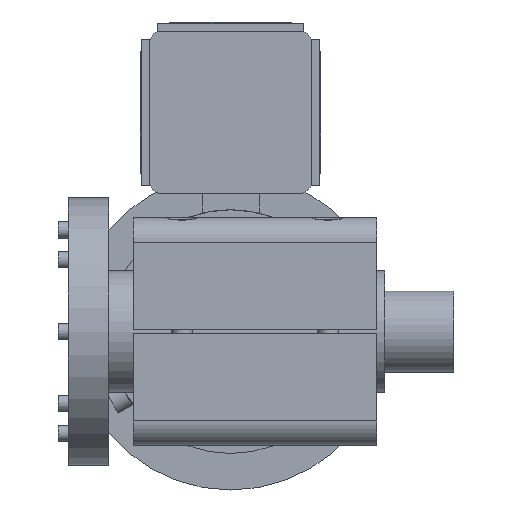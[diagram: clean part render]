
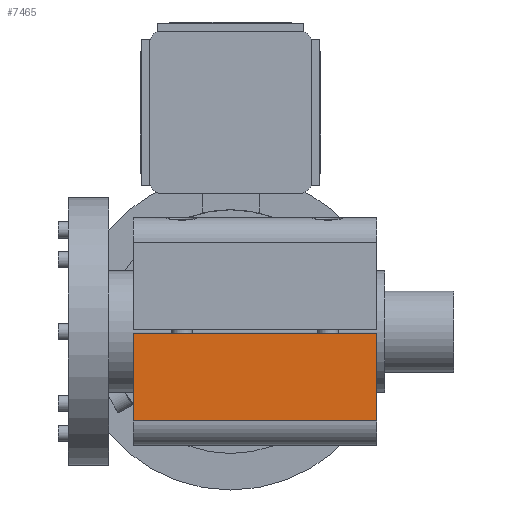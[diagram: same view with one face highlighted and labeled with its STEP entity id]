
A CAD part, left-side view. The second image highlights one B-rep face of the part: STEP entity #7465.
In plain terms, the highlighted planar face has unit normal (-1, 0, 0).
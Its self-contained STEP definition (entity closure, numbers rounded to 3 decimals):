
#7465 = ADVANCED_FACE('',(#7466),#7480,.F.);
#7466 = FACE_BOUND('',#7467,.F.);
#7467 = EDGE_LOOP('',(#7468,#7503,#7531,#7559));
#7468 = ORIENTED_EDGE('',*,*,#7469,.F.);
#7469 = EDGE_CURVE('',#7470,#7472,#7474,.T.);
#7470 = VERTEX_POINT('',#7471);
#7471 = CARTESIAN_POINT('',(368.,-36.,678.));
#7472 = VERTEX_POINT('',#7473);
#7473 = CARTESIAN_POINT('',(368.,-36.,699.5));
#7474 = SURFACE_CURVE('',#7475,(#7479,#7491),.PCURVE_S1.);
#7475 = LINE('',#7476,#7477);
#7476 = CARTESIAN_POINT('',(368.,-36.,672.));
#7477 = VECTOR('',#7478,1.);
#7478 = DIRECTION('',(0.,0.,1.));
#7479 = PCURVE('',#7480,#7485);
#7480 = PLANE('',#7481);
#7481 = AXIS2_PLACEMENT_3D('',#7482,#7483,#7484);
#7482 = CARTESIAN_POINT('',(368.,-36.,672.));
#7483 = DIRECTION('',(1.,0.,0.));
#7484 = DIRECTION('',(0.,0.,1.));
#7485 = DEFINITIONAL_REPRESENTATION('',(#7486),#7490);
#7486 = LINE('',#7487,#7488);
#7487 = CARTESIAN_POINT('',(0.,0.));
#7488 = VECTOR('',#7489,1.);
#7489 = DIRECTION('',(1.,0.));
#7490 = ( GEOMETRIC_REPRESENTATION_CONTEXT(2) 
PARAMETRIC_REPRESENTATION_CONTEXT() REPRESENTATION_CONTEXT('2D SPACE',''
  ) );
#7491 = PCURVE('',#7492,#7497);
#7492 = PLANE('',#7493);
#7493 = AXIS2_PLACEMENT_3D('',#7494,#7495,#7496);
#7494 = CARTESIAN_POINT('',(368.,-36.,672.));
#7495 = DIRECTION('',(0.,1.,0.));
#7496 = DIRECTION('',(0.,0.,1.));
#7497 = DEFINITIONAL_REPRESENTATION('',(#7498),#7502);
#7498 = LINE('',#7499,#7500);
#7499 = CARTESIAN_POINT('',(0.,0.));
#7500 = VECTOR('',#7501,1.);
#7501 = DIRECTION('',(1.,0.));
#7502 = ( GEOMETRIC_REPRESENTATION_CONTEXT(2) 
PARAMETRIC_REPRESENTATION_CONTEXT() REPRESENTATION_CONTEXT('2D SPACE',''
  ) );
#7503 = ORIENTED_EDGE('',*,*,#7504,.T.);
#7504 = EDGE_CURVE('',#7470,#7505,#7507,.T.);
#7505 = VERTEX_POINT('',#7506);
#7506 = CARTESIAN_POINT('',(368.,24.,678.));
#7507 = SURFACE_CURVE('',#7508,(#7512,#7519),.PCURVE_S1.);
#7508 = LINE('',#7509,#7510);
#7509 = CARTESIAN_POINT('',(368.,-36.,678.));
#7510 = VECTOR('',#7511,1.);
#7511 = DIRECTION('',(0.,1.,0.));
#7512 = PCURVE('',#7480,#7513);
#7513 = DEFINITIONAL_REPRESENTATION('',(#7514),#7518);
#7514 = LINE('',#7515,#7516);
#7515 = CARTESIAN_POINT('',(6.,0.));
#7516 = VECTOR('',#7517,1.);
#7517 = DIRECTION('',(0.,-1.));
#7518 = ( GEOMETRIC_REPRESENTATION_CONTEXT(2) 
PARAMETRIC_REPRESENTATION_CONTEXT() REPRESENTATION_CONTEXT('2D SPACE',''
  ) );
#7519 = PCURVE('',#7520,#7525);
#7520 = CYLINDRICAL_SURFACE('',#7521,6.);
#7521 = AXIS2_PLACEMENT_3D('',#7522,#7523,#7524);
#7522 = CARTESIAN_POINT('',(374.,-36.,678.));
#7523 = DIRECTION('',(0.,1.,0.));
#7524 = DIRECTION('',(-1.,0.,0.));
#7525 = DEFINITIONAL_REPRESENTATION('',(#7526),#7530);
#7526 = LINE('',#7527,#7528);
#7527 = CARTESIAN_POINT('',(-0.,0.));
#7528 = VECTOR('',#7529,1.);
#7529 = DIRECTION('',(-0.,1.));
#7530 = ( GEOMETRIC_REPRESENTATION_CONTEXT(2) 
PARAMETRIC_REPRESENTATION_CONTEXT() REPRESENTATION_CONTEXT('2D SPACE',''
  ) );
#7531 = ORIENTED_EDGE('',*,*,#7532,.T.);
#7532 = EDGE_CURVE('',#7505,#7533,#7535,.T.);
#7533 = VERTEX_POINT('',#7534);
#7534 = CARTESIAN_POINT('',(368.,24.,699.5));
#7535 = SURFACE_CURVE('',#7536,(#7540,#7547),.PCURVE_S1.);
#7536 = LINE('',#7537,#7538);
#7537 = CARTESIAN_POINT('',(368.,24.,672.));
#7538 = VECTOR('',#7539,1.);
#7539 = DIRECTION('',(0.,0.,1.));
#7540 = PCURVE('',#7480,#7541);
#7541 = DEFINITIONAL_REPRESENTATION('',(#7542),#7546);
#7542 = LINE('',#7543,#7544);
#7543 = CARTESIAN_POINT('',(0.,-60.));
#7544 = VECTOR('',#7545,1.);
#7545 = DIRECTION('',(1.,0.));
#7546 = ( GEOMETRIC_REPRESENTATION_CONTEXT(2) 
PARAMETRIC_REPRESENTATION_CONTEXT() REPRESENTATION_CONTEXT('2D SPACE',''
  ) );
#7547 = PCURVE('',#7548,#7553);
#7548 = PLANE('',#7549);
#7549 = AXIS2_PLACEMENT_3D('',#7550,#7551,#7552);
#7550 = CARTESIAN_POINT('',(368.,24.,672.));
#7551 = DIRECTION('',(0.,1.,0.));
#7552 = DIRECTION('',(0.,0.,1.));
#7553 = DEFINITIONAL_REPRESENTATION('',(#7554),#7558);
#7554 = LINE('',#7555,#7556);
#7555 = CARTESIAN_POINT('',(0.,0.));
#7556 = VECTOR('',#7557,1.);
#7557 = DIRECTION('',(1.,0.));
#7558 = ( GEOMETRIC_REPRESENTATION_CONTEXT(2) 
PARAMETRIC_REPRESENTATION_CONTEXT() REPRESENTATION_CONTEXT('2D SPACE',''
  ) );
#7559 = ORIENTED_EDGE('',*,*,#7560,.T.);
#7560 = EDGE_CURVE('',#7533,#7472,#7561,.T.);
#7561 = SURFACE_CURVE('',#7562,(#7566,#7572),.PCURVE_S1.);
#7562 = LINE('',#7563,#7564);
#7563 = CARTESIAN_POINT('',(368.,-36.5,699.5));
#7564 = VECTOR('',#7565,1.);
#7565 = DIRECTION('',(0.,-1.,0.));
#7566 = PCURVE('',#7480,#7567);
#7567 = DEFINITIONAL_REPRESENTATION('',(#7568),#7571);
#7568 = B_SPLINE_CURVE_WITH_KNOTS('',1,(#7569,#7570),.UNSPECIFIED.,.F.,
  .F.,(2,2),(-60.5,-0.5),.PIECEWISE_BEZIER_KNOTS.);
#7569 = CARTESIAN_POINT('',(27.5,-60.));
#7570 = CARTESIAN_POINT('',(27.5,0.));
#7571 = ( GEOMETRIC_REPRESENTATION_CONTEXT(2) 
PARAMETRIC_REPRESENTATION_CONTEXT() REPRESENTATION_CONTEXT('2D SPACE',''
  ) );
#7572 = PCURVE('',#7573,#7578);
#7573 = PLANE('',#7574);
#7574 = AXIS2_PLACEMENT_3D('',#7575,#7576,#7577);
#7575 = CARTESIAN_POINT('',(367.,-37.,699.5));
#7576 = DIRECTION('',(0.,0.,1.));
#7577 = DIRECTION('',(1.,0.,-0.));
#7578 = DEFINITIONAL_REPRESENTATION('',(#7579),#7582);
#7579 = B_SPLINE_CURVE_WITH_KNOTS('',1,(#7580,#7581),.UNSPECIFIED.,.F.,
  .F.,(2,2),(-60.5,-0.5),.PIECEWISE_BEZIER_KNOTS.);
#7580 = CARTESIAN_POINT('',(1.,61.));
#7581 = CARTESIAN_POINT('',(1.,1.));
#7582 = ( GEOMETRIC_REPRESENTATION_CONTEXT(2) 
PARAMETRIC_REPRESENTATION_CONTEXT() REPRESENTATION_CONTEXT('2D SPACE',''
  ) );
